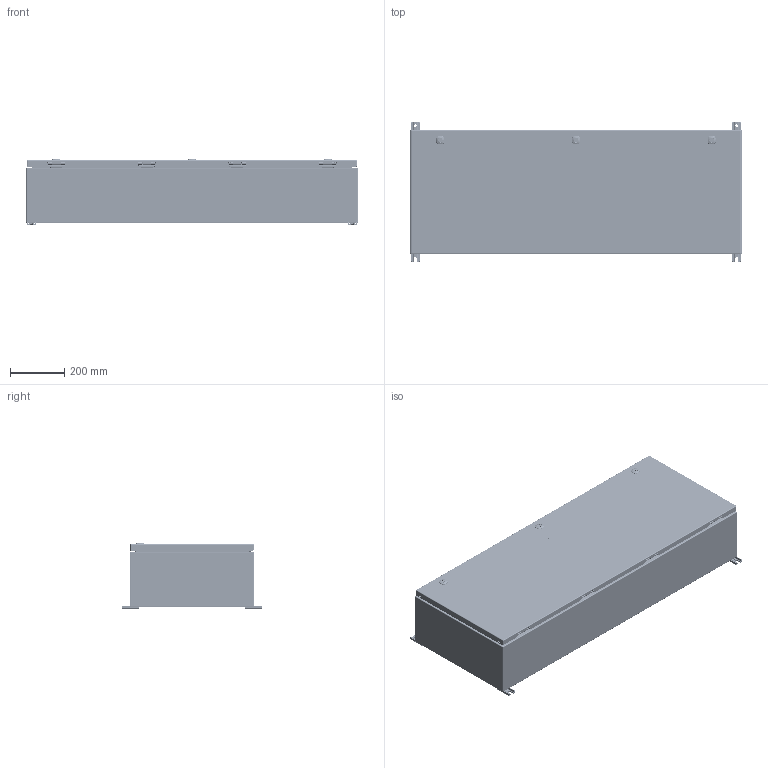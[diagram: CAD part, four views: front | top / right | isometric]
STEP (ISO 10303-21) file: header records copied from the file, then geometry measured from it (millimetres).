
FILE_DESCRIPTION(/* description */ ('1412BTSSCU 225A - 3 Wires x 48" Assembly'),/* implementation_level */ '2;1');
FILE_NAME(/* name */ 'C:\Vault_Workspace\Inventor_Dwg\BoxCad\Result\1412BTSSCU04203DT\e-mail\3D\1412BTSSCU04203DT.stp',/* time_stamp */ '2022-10-28T16:27:43-04:00',/* author */ ('BoxCad'),/* organization */ (''),/* preprocessor_version */ 'ST-DEVELOPER v18.1',/* originating_system */ 'Autodesk Inventor 2020',/* authorisation */ '');
FILE_SCHEMA (('AUTOMOTIVE_DESIGN { 1 0 10303 214 3 1 1 }'));
Products named in the file (50): 1412BTSSCU04203DT; 1412BTSSCU04203DTB; 1412BTSSCU04203DTB-P; STK-Q-16020; 1412BTSSCU04203DTC; 1412BTSSCU04203DTC-P; 1412BTSSCU04203DTG; STK-Q-16095; STK-K-09850-1; STK-Q-33019; STK-Q-90111; STK-Q-40096; STK-Q-63412; STK-S-00100; STK-A-880SCQ4-SLSS6-1; STK-A-880SCQ4-SLSS6-2; STK-A-880SCQ4-SLSS6-3; STK-Q-70621; STK-Q-70631; STK-Q-78145; STK-Q-03200; STK-Q-78125; STK-Q-90390; STK-Q-78160; STK-Q-78141; 1412BTSSCU04203DTIP1; 1412BTSSCU04203DTIP1-P; STK-P-02401S; STK-Q-07610; STK-A-67400; STK-Q-67400; STK-G-22300; STK-Q-67420; STK-Q-40800; STK-Q-67430; STK-Q-07310; 1412BTSSCU04203DTBAR1-P; 1412BTSSCU04203DTBAR2-P; 1412BTSSCU04203DTBAR3-P; 1412BTSSCU04203DTMF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
Assembly tree (107 placements, depth 4):
  1412BTSSCU04203DT
    1412BTSSCU04203DTB
      1412BTSSCU04203DTB-P
      STK-Q-16095
      STK-Q-16020  x6
      STK-S-00100
    1412BTSSCU04203DTC
      1412BTSSCU04203DTC-P
      1412BTSSCU04203DTG
      STK-Q-16095
      STK-K-09850-1  x4
        STK-Q-33019
        STK-Q-90111
        STK-Q-40096
        STK-Q-63412
      STK-S-00100
      STK-A-880SCQ4-SLSS6-1
        STK-Q-70621
        STK-Q-70631
        STK-Q-78145
        STK-Q-03200
        STK-Q-78125
        STK-Q-90390
        STK-Q-78160
        STK-Q-78141
      STK-A-880SCQ4-SLSS6-2
        STK-Q-70621
        STK-Q-70631
        STK-Q-78145
        STK-Q-03200
        STK-Q-78125
        STK-Q-90390
        STK-Q-78160
        STK-Q-78141
      STK-A-880SCQ4-SLSS6-3
        STK-Q-70621
        STK-Q-70631
        STK-Q-78145
        STK-Q-03200
        STK-Q-78125
        STK-Q-90390
        STK-Q-78160
        STK-Q-78141
    1412BTSSCU04203DTIP1
      1412BTSSCU04203DTIP1-P
      STK-P-02401S
    STK-Q-07610  x4
    STK-Q-07310  x10
    STK-A-67400  x6
      STK-Q-67400
      STK-G-22300
      STK-Q-67420
      STK-Q-40800
      STK-Q-67430
    1412BTSSCU04203DTBAR1-P
    1412BTSSCU04203DTBAR2-P
    1412BTSSCU04203DTBAR3-P
    1412BTSSCU04203DTMF
      885ESMF2-FEET  x2
      885ESMF2-FEET-A  x2
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Bounding box: 1219.2 x 514.35 x 243.4 mm (x, y, z)
Volume: 5161672.1 mm3; surface area: 5320596.4 mm2
Topology: 145 solids, 145 shells, 20792 faces, 54925 edges, 34450 vertices
Faces by surface type: plane 7435, bspline 6179, cylinder 5140, torus 1401, sphere 412, cone 225
Full cylindrical faces by diameter (mm): 0.75 x8, 0.762 x8, 1 x16, 1.1 x16, 3.2 x8, 4.5 x24, 4.85 x32, 4.917 x4, 4.95 x8, 5.1 x33, 5.105 x18, 5.9 x78, 6.65 x6, 6.655 x6, 6.85 x40, 7.366 x8, 7.8 x246, 8 x20, 8.25 x12, 8.6 x12, 9.6 x3, 9.7 x48, 9.906 x4, 10 x7, 10.312 x2, 11.5 x12, 12 x10, 12.8 x3, 13 x3, 14 x8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
Entity records: 202803 total; most frequent: CARTESIAN_POINT 83375, ORIENTED_EDGE 26998, DIRECTION 20337, EDGE_CURVE 13499, VERTEX_POINT 8613, AXIS2_PLACEMENT_3D 6963, LINE 6411, VECTOR 6411
